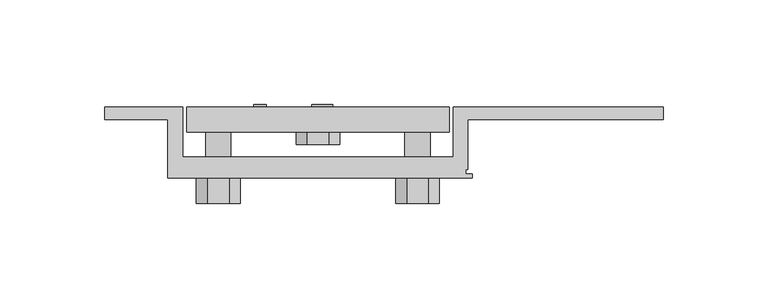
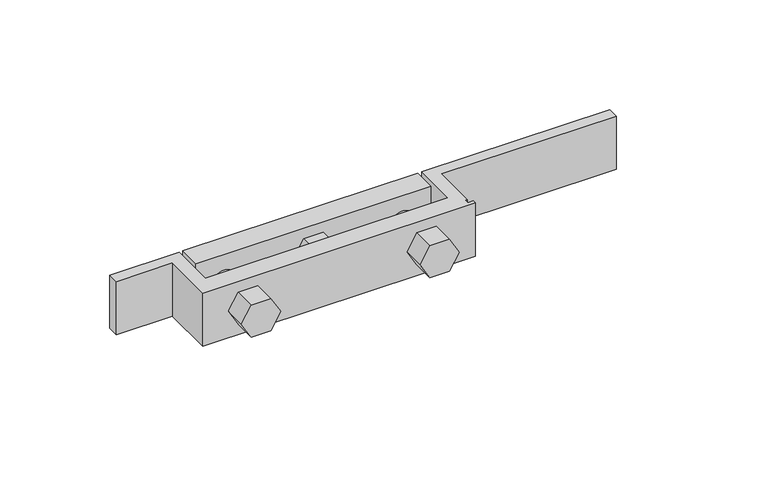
"""IFC4 building model written with IfcOpenShell, lengths in millimetres: proxy geometry, Электромагнитный_замок_ML-1200N2(2)_AccordTec_R19 : Электромагнитный_замок_ML-1200N2(2)_AccordTec_R19."""

from ifc_helpers import new_model, si_unit, point, frame, frame_2d, origin, origin_with_axes, place, context, project, spatial, polyline, circle_curve, trimmed, segment, composite_curve, outline, extrude, source, transform, mapped, element, save


def generic_models_967bc4de(model_context):
    return source(origin(), model_context, "Body", "SweptSolid", [
        extrude(outline(composite_curve([segment(trimmed(circle_curve(frame_2d((15.0, 99.5719815)), 5.0), [point((15.0, 104.5719815))], [point((15.0, 94.5719815))], False, "CARTESIAN"), True, "CONTINUOUS"), segment(trimmed(circle_curve(frame_2d((15.0, 99.5719815)), 5.0), [point((15.0, 94.5719815))], [point((15.0, 104.5719815))], False, "CARTESIAN"), True, "CONTINUOUS")], self_intersect=False)), frame((0.0, 92.1110945, 0.0), z_axis=(0.0, 1.0, 0.0), x_axis=(0.0, 0.0, 1.0)), (0.0, 0.0, 1.0), 1.0),
        extrude(outline(composite_curve([segment(trimmed(circle_curve(frame_2d((15.0, 69.8919815)), 3.0), [point((15.0, 66.8919815))], [point((15.0, 72.8919815))], False, "CARTESIAN"), True, "CONTINUOUS"), segment(trimmed(circle_curve(frame_2d((15.0, 69.8919815)), 3.0), [point((15.0, 72.8919815))], [point((15.0, 66.8919815))], False, "CARTESIAN"), True, "CONTINUOUS")], self_intersect=False)), frame((0.0, 92.1110945, 0.0), z_axis=(0.0, 1.0, 0.0), x_axis=(0.0, 0.0, 1.0)), (0.0, 0.0, 1.0), 1.0),
        extrude(outline(polyline([(15.0, 107.7919815), (24.0066642, 102.5919815), (24.0066642, 92.1919815), (15.0, 86.9919815), (5.9933358, 92.1919815), (5.9933358, 102.5919815), (15.0, 107.7919815)])), frame((0.0, 74.1110945, 0.0), z_axis=(0.0, 1.0, 0.0), x_axis=(0.0, 0.0, 1.0)), (0.0, 0.0, 1.0), 6.0),
        extrude(outline(polyline([(15.0, 155.2919815), (24.0066642, 150.0919815), (24.0066642, 139.6919815), (15.0, 134.4919815), (5.9933358, 139.6919815), (5.9933358, 150.0919815), (15.0, 155.2919815)])), frame((0.0, 46.1110945, 0.0), z_axis=(0.0, 1.0, 0.0), x_axis=(0.0, 0.0, 1.0)), (0.0, 0.0, 1.0), 12.0),
        extrude(outline(polyline([(15.0, 60.2919815), (24.0066642, 55.0919815), (24.0066642, 44.6919815), (15.0, 39.4919815), (5.9933358, 44.6919815), (5.9933358, 55.0919815), (15.0, 60.2919815)])), frame((0.0, 46.1110945, 0.0), z_axis=(0.0, 1.0, 0.0), x_axis=(0.0, 0.0, 1.0)), (0.0, 0.0, 1.0), 12.0),
        extrude(outline(composite_curve([segment(trimmed(circle_curve(frame_2d((15.0, 144.8919815)), 6.0), [point((15.0, 138.8919815))], [point((15.0, 150.8919815))], False, "CARTESIAN"), True, "CONTINUOUS"), segment(trimmed(circle_curve(frame_2d((15.0, 144.8919815)), 6.0), [point((15.0, 150.8919815))], [point((15.0, 138.8919815))], False, "CARTESIAN"), True, "CONTINUOUS")], self_intersect=False)), frame((0.0, 58.1110945, 0.0), z_axis=(0.0, 1.0, 0.0), x_axis=(0.0, 0.0, 1.0)), (0.0, 0.0, 1.0), 23.0),
        extrude(outline(composite_curve([segment(trimmed(circle_curve(frame_2d((15.0, 49.8919815)), 6.0), [point((15.0, 43.8919815))], [point((15.0, 55.8919815))], False, "CARTESIAN"), True, "CONTINUOUS"), segment(trimmed(circle_curve(frame_2d((15.0, 49.8919815)), 6.0), [point((15.0, 55.8919815))], [point((15.0, 43.8919815))], False, "CARTESIAN"), True, "CONTINUOUS")], self_intersect=False)), frame((0.0, 58.1110945, 0.0), z_axis=(0.0, 1.0, 0.0), x_axis=(0.0, 0.0, 1.0)), (0.0, 0.0, 1.0), 23.0),
        extrude(outline(polyline([(159.8919815, 80.1110945), (34.8919815, 80.1110945), (34.8919815, 92.1110945), (159.8919815, 92.1110945), (159.8919815, 80.1110945)])), origin_with_axes(), (0.0, 0.0, 1.0), 30.0),
        extrude(outline(polyline([(25.8919815, 86.1110945), (-4.1080185, 86.1110945), (-4.1080185, 92.1110945), (32.8919815, 92.1110945), (32.8919815, 68.1110945), (161.8919815, 68.1110945), (161.8919815, 92.1110945), (261.8919815, 92.1110945), (261.8919815, 86.1110945), (168.8919815, 86.1110945), (168.8919815, 62.1110945), (167.8919815, 62.1110945), (167.8919815, 60.1110945), (170.8919815, 60.1110945), (170.8919815, 58.1110945), (25.8919815, 58.1110945), (25.8919815, 86.1110945)])), origin_with_axes(), (0.0, 0.0, 1.0), 30.0),
    ])


if __name__ == "__main__":
    model = new_model("IFC4")
    model_context = context("Model", 3, world=origin())
    ifc_project = project(units=[si_unit("LENGTHUNIT", "METRE", prefix="MILLI")], contexts=[model_context])
    site = spatial("IfcSite", under=ifc_project)
    building = spatial("IfcBuilding", under=site)
    placement = place(None, origin())
    generic_models_shape = generic_models_967bc4de(model_context)
    element("IfcBuildingElementProxy", 1, Name="Электромагнитный_замок_ML-1200N2(2)_AccordTec_R19 : Электромагнитный_замок_ML-1200N2(2)_AccordTec_R19", ObjectType="Электромагнитный_замок_ML-1200N2(2)_AccordTec_R19 : Электромагнитный_замок_ML-1200N2(2)_AccordTec_R19", at=placement, inside=building, context=model_context, shape_type="MappedRepresentation", body=[
        mapped(generic_models_shape, transform((0.0, 0.0, 0.0), x_axis=(1.0, 0.0, 0.0), y_axis=(0.0, 1.0, 0.0), z_axis=(0.0, 0.0, 1.0))),
    ])
    save(model, "model.ifc")
